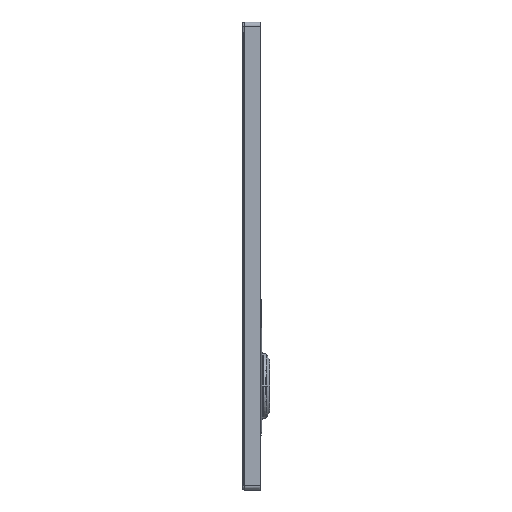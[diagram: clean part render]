
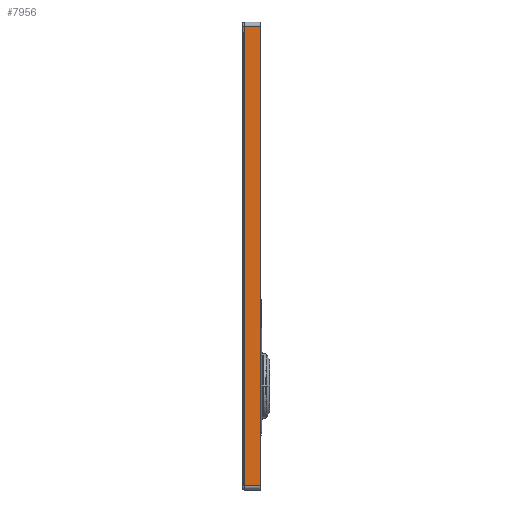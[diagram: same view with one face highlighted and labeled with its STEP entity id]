
A CAD part, left-side view. The second image highlights one B-rep face of the part: STEP entity #7956.
In plain terms, the highlighted planar face has unit normal (-1, 0, 0).
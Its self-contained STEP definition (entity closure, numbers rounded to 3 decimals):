
#2290=DIRECTION('',(0.,1.,0.));
#2291=VECTOR('',#2290,30.955);
#2292=CARTESIAN_POINT('',(-450.,-35.,-192.));
#2293=LINE('',#2292,#2291);
#2294=CARTESIAN_POINT('',(-450.,-4.045,-192.));
#2295=CARTESIAN_POINT('',(-450.,-4.079,
-186.072));
#2296=CARTESIAN_POINT('',(-450.,-4.153,
-174.561));
#2297=CARTESIAN_POINT('',(-450.,-4.258,
-158.713));
#2298=CARTESIAN_POINT('',(-450.,-4.355,
-143.124));
#2299=CARTESIAN_POINT('',(-450.,-4.436,
-127.185));
#2300=CARTESIAN_POINT('',(-450.,-4.49,-111.139));
#2301=CARTESIAN_POINT('',(-450.,-4.511,-95.202));
#2302=CARTESIAN_POINT('',(-450.,-4.502,-79.362));
#2303=CARTESIAN_POINT('',(-450.,-4.47,-63.581));
#2304=CARTESIAN_POINT('',(-450.,-4.426,-47.808));
#2305=CARTESIAN_POINT('',(-450.,-4.382,-32.017));
#2306=CARTESIAN_POINT('',(-450.,-4.344,-16.202));
#2307=CARTESIAN_POINT('',(-450.,-4.315,-0.36));
#2308=CARTESIAN_POINT('',(-450.,-4.295,15.51));
#2309=CARTESIAN_POINT('',(-450.,-4.281,31.314));
#2310=CARTESIAN_POINT('',(-450.,-4.273,47.075));
#2311=CARTESIAN_POINT('',(-450.,-4.268,63.184));
#2312=CARTESIAN_POINT('',(-450.,-4.266,80.226));
#2313=CARTESIAN_POINT('',(-450.,-4.265,98.8));
#2314=CARTESIAN_POINT('',(-450.,-4.265,119.253));
#2315=CARTESIAN_POINT('',(-450.,-4.265,141.55));
#2316=CARTESIAN_POINT('',(-450.,-4.265,165.649));
#2317=CARTESIAN_POINT('',(-450.,-4.264,191.642));
#2318=CARTESIAN_POINT('',(-450.,-4.261,219.702));
#2319=CARTESIAN_POINT('',(-450.,-4.257,250.116));
#2320=CARTESIAN_POINT('',(-450.,-4.253,283.288));
#2321=CARTESIAN_POINT('',(-450.,-4.248,317.668));
#2322=CARTESIAN_POINT('',(-450.,-4.244,350.507));
#2323=CARTESIAN_POINT('',(-450.,-4.243,380.519));
#2324=CARTESIAN_POINT('',(-450.,-4.243,407.272));
#2325=CARTESIAN_POINT('',(-450.,-4.245,431.014));
#2326=CARTESIAN_POINT('',(-450.,-4.249,452.367));
#2327=CARTESIAN_POINT('',(-450.,-4.256,471.815));
#2328=CARTESIAN_POINT('',(-450.,-4.264,489.58));
#2329=CARTESIAN_POINT('',(-450.,-4.274,505.817));
#2330=CARTESIAN_POINT('',(-450.,-4.286,520.687));
#2331=CARTESIAN_POINT('',(-450.,-4.299,534.315));
#2332=CARTESIAN_POINT('',(-450.,-4.313,546.802));
#2333=CARTESIAN_POINT('',(-450.,-4.328,558.24));
#2334=CARTESIAN_POINT('',(-450.,-4.344,568.728));
#2335=CARTESIAN_POINT('',(-450.,-4.361,578.357));
#2336=CARTESIAN_POINT('',(-450.,-4.379,587.259));
#2337=CARTESIAN_POINT('',(-450.,-4.398,595.622));
#2338=CARTESIAN_POINT('',(-450.,-4.419,603.654));
#2339=CARTESIAN_POINT('',(-450.,-4.442,611.562));
#2340=CARTESIAN_POINT('',(-450.,-4.466,619.469));
#2341=CARTESIAN_POINT('',(-450.,-4.489,627.413));
#2342=CARTESIAN_POINT('',(-450.,-4.505,635.319));
#2343=CARTESIAN_POINT('',(-450.,-4.506,
643.127));
#2344=CARTESIAN_POINT('',(-450.,-4.484,
651.128));
#2345=CARTESIAN_POINT('',(-450.,-4.428,
659.913));
#2346=CARTESIAN_POINT('',(-450.,-4.334,
669.612));
#2347=CARTESIAN_POINT('',(-450.,-4.21,
680.239));
#2348=CARTESIAN_POINT('',(-450.,-4.122,
687.973));
#2349=CARTESIAN_POINT('',(-450.,-4.08,692.));
#2351=DIRECTION('',(0.,1.,0.));
#2352=VECTOR('',#2351,30.92);
#2353=CARTESIAN_POINT('',(-450.,-35.,692.));
#2354=LINE('',#2353,#2352);
#2566=DIRECTION('',(0.,0.,1.));
#2567=VECTOR('',#2566,884.);
#2568=CARTESIAN_POINT('',(-450.,-35.,-192.));
#2569=LINE('',#2568,#2567);
#5472=CARTESIAN_POINT('',(-450.,-35.,-192.));
#5473=CARTESIAN_POINT('',(-450.,-35.,692.));
#5474=VERTEX_POINT('',#5472);
#5475=VERTEX_POINT('',#5473);
#5488=CARTESIAN_POINT('',(-450.,-4.045,-192.));
#5489=VERTEX_POINT('',#5488);
#5502=CARTESIAN_POINT('',(-450.,-4.08,692.));
#5503=VERTEX_POINT('',#5502);
#7943=CARTESIAN_POINT('',(-450.,0.,-200.));
#7944=DIRECTION('',(-1.,0.,0.));
#7945=DIRECTION('',(0.,0.,1.));
#7946=AXIS2_PLACEMENT_3D('',#7943,#7944,#7945);
#7947=PLANE('',#7946);
#7948=ORIENTED_EDGE('',*,*,#7934,.T.);
#7949=ORIENTED_EDGE('',*,*,#7038,.T.);
#7951=ORIENTED_EDGE('',*,*,#7950,.F.);
#7953=ORIENTED_EDGE('',*,*,#7952,.F.);
#7954=EDGE_LOOP('',(#7948,#7949,#7951,#7953));
#7955=FACE_OUTER_BOUND('',#7954,.F.);
#2350=B_SPLINE_CURVE_WITH_KNOTS('',3,(#2294,#2295,#2296,#2297,#2298,#2299,#2300,
#2301,#2302,#2303,#2304,#2305,#2306,#2307,#2308,#2309,#2310,#2311,#2312,#2313,
#2314,#2315,#2316,#2317,#2318,#2319,#2320,#2321,#2322,#2323,#2324,#2325,#2326,
#2327,#2328,#2329,#2330,#2331,#2332,#2333,#2334,#2335,#2336,#2337,#2338,#2339,
#2340,#2341,#2342,#2343,#2344,#2345,#2346,#2347,#2348,#2349),.UNSPECIFIED.,.F.,
.F.,(4,1,1,1,1,1,1,1,1,1,1,1,1,1,1,1,1,1,1,1,1,1,1,1,1,1,1,1,1,1,1,1,1,1,1,1,1,
1,1,1,1,1,1,1,1,1,1,1,1,1,1,1,1,4),(0.,0.019,0.038,
0.057,0.075,0.094,0.113,
0.132,0.151,0.17,0.189,
0.208,0.226,0.245,0.264,
0.283,0.302,0.321,0.34,
0.358,0.377,0.396,0.415,
0.434,0.453,0.472,0.491,
0.509,0.528,0.547,0.566,
0.585,0.604,0.623,0.642,
0.66,0.679,0.698,0.717,
0.736,0.755,0.774,0.792,
0.811,0.83,0.849,0.868,
0.887,0.906,0.925,0.943,
0.962,0.981,1.),.UNSPECIFIED.);
#7038=EDGE_CURVE('',#5489,#5503,#2350,.T.);
#7934=EDGE_CURVE('',#5474,#5489,#2293,.T.);
#7950=EDGE_CURVE('',#5475,#5503,#2354,.T.);
#7952=EDGE_CURVE('',#5474,#5475,#2569,.T.);
#7956=ADVANCED_FACE('',(#7955),#7947,.T.);
